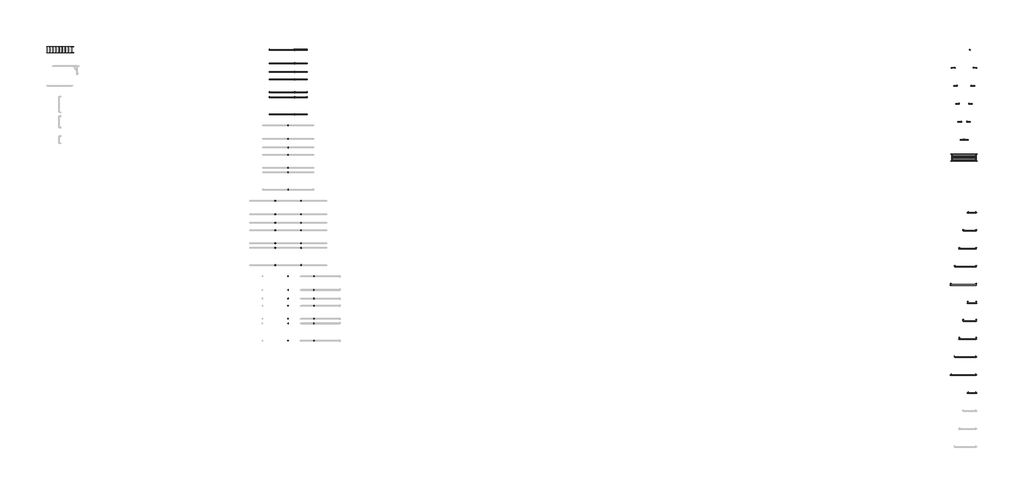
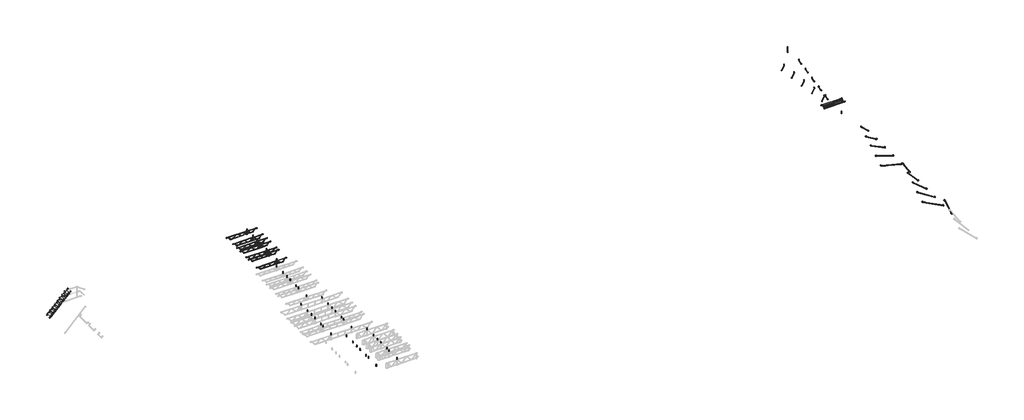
# One storey, part 2 of 2: 74 proxies.
"""IFC4 building model written with IfcOpenShell, lengths in millimetres."""

from ifc_helpers import new_model, si_unit, origin, place, context, project, spatial, transform, mapped, element, save
from components import generic_models_9149ebec, generic_models_e8462fea, generic_models_89b152cf, generic_models_258c66e1, generic_models_1a3c0f21, generic_models_b59a73c9, generic_models_47678d16, generic_models_ed6e2dec, generic_models_a7a6e0bf, generic_models_2d8e7d99, generic_models_ef642bdb, generic_models_513740f3, generic_models_756b3199, generic_models_037b7c47, generic_models_7b9bd429, generic_models_9f188e84, generic_models_ce839660, generic_models_b0d1cf98, generic_models_d6438b01, generic_models_7990cb1c, generic_models_4b7686ac

model = new_model("IFC4")

# Units and contexts
model_context = context("Model", 3, world=origin())
ifc_project = project(units=[si_unit("LENGTHUNIT", "METRE", prefix="MILLI")], contexts=[model_context])

# Site, building, storey
site = spatial("IfcSite", under=ifc_project)
building = spatial("IfcBuilding", under=site)
storey = spatial("IfcBuildingStorey", under=building, Name="レベル 1", Elevation=500.0)

# Proxies
placement = place(None, origin())
generic_models_shape = generic_models_9149ebec(model_context)
element("IfcBuildingElementProxy", 1, Name="AK_アルバトロスＡＫアウトリガー : AK_アルバトロスＡＫアウトリガー", ObjectType="AK_アルバトロスＡＫアウトリガー : AK_アルバトロスＡＫアウトリガー", at=placement, inside=storey, context=model_context, shape_type="MappedRepresentation", body=[
    mapped(generic_models_shape, transform((111846.8507471, 25132.706542, 500.0), x_axis=(1.0, 0.0, 0.0), y_axis=(0.0, 1.0, 0.0), z_axis=(0.0, 0.0, 1.0))),
])
generic_models_2_shape = generic_models_e8462fea(model_context)
element("IfcBuildingElementProxy", 2, Name="AK_アルバトロスAK全開閉式床付き布わく : ALTHM518S", ObjectType="AK_アルバトロスAK全開閉式床付き布わく : ALTHM518S", at=placement, inside=storey, context=model_context, shape_type="MappedRepresentation", body=[
    mapped(generic_models_2_shape, transform((111305.1155155, 17331.6914409, 500.0), x_axis=(1.0, 0.0, 0.0), y_axis=(0.0, 1.0, 0.0), z_axis=(0.0, 0.0, 1.0))),
])
generic_models_3_shape = generic_models_89b152cf(model_context)
element("IfcBuildingElementProxy", 3, Name="AK_アルバ用大引受ジャッキかさ上げ金具 : AK_アルバ用大引受ジャッキかさ上げ金具", ObjectType="AK_アルバ用大引受ジャッキかさ上げ金具 : AK_アルバ用大引受ジャッキかさ上げ金具", at=placement, inside=storey, context=model_context, shape_type="MappedRepresentation", body=[
    mapped(generic_models_3_shape, transform((112219.6155155, 16312.706542, 500.0), x_axis=(1.0, 0.0, 0.0), y_axis=(0.0, 1.0, 0.0), z_axis=(0.0, 0.0, 1.0))),
])
generic_models_4_shape = generic_models_258c66e1(model_context)
element("IfcBuildingElementProxy", 4, Name="アルバトロスAK1.5スパンはりわく_軽 : アルバトロスAK1.5スパンはりわく_軽", ObjectType="アルバトロスAK1.5スパンはりわく_軽 : アルバトロスAK1.5スパンはりわく_軽", at=placement, inside=storey, context=model_context, shape_type="MappedRepresentation", body=[
    mapped(generic_models_4_shape, transform((63657.8356425, 25132.706542, 500.0), x_axis=(1.0, 0.0, 0.0), y_axis=(0.0, 1.0, 0.0), z_axis=(0.0, 0.0, 1.0))),
])
generic_models_5_shape = generic_models_1a3c0f21(model_context)
element("IfcBuildingElementProxy", 5, Name="AK_アルバトロスAK伸縮斜材 : H0900×L1200", ObjectType="AK_アルバトロスAK伸縮斜材 : H0900×L1200", at=placement, inside=storey, context=model_context, shape_type="MappedRepresentation", body=[
    mapped(generic_models_5_shape, transform((113074.6155155, 11202.706542, 0.0), x_axis=(1.0, 0.0, 0.0), y_axis=(0.0, 1.0, 0.0), z_axis=(0.0, 0.0, 1.0))),
])
generic_models_6_shape = generic_models_b59a73c9(model_context)
element("IfcBuildingElementProxy", 6, Name="AK_アルバトロスAK伸縮斜材 : H1350×L1200", ObjectType="AK_アルバトロスAK伸縮斜材 : H1350×L1200", at=placement, inside=storey, context=model_context, shape_type="MappedRepresentation", body=[
    mapped(generic_models_6_shape, transform((113074.6155155, 4902.706542, 0.0), x_axis=(1.0, 0.0, 0.0), y_axis=(0.0, 1.0, 0.0), z_axis=(0.0, 0.0, 1.0))),
])
generic_models_7_shape = generic_models_47678d16(model_context)
element("IfcBuildingElementProxy", 7, Name="AK_アルバトロスAK伸縮斜材 : H0900×L1500", ObjectType="AK_アルバトロスAK伸縮斜材 : H0900×L1500", at=placement, inside=storey, context=model_context, shape_type="MappedRepresentation", body=[
    mapped(generic_models_7_shape, transform((113074.6155155, 9942.706542, 0.0), x_axis=(1.0, 0.0, 0.0), y_axis=(0.0, 1.0, 0.0), z_axis=(0.0, 0.0, 1.0))),
])
generic_models_8_shape = generic_models_ed6e2dec(model_context)
element("IfcBuildingElementProxy", 8, Name="AK_アルバトロスAK伸縮斜材 : H1350×L1500", ObjectType="AK_アルバトロスAK伸縮斜材 : H1350×L1500", at=placement, inside=storey, context=model_context, shape_type="MappedRepresentation", body=[
    mapped(generic_models_8_shape, transform((113074.6155155, 3642.706542, 0.0), x_axis=(1.0, 0.0, 0.0), y_axis=(0.0, 1.0, 0.0), z_axis=(0.0, 0.0, 1.0))),
])
generic_models_9_shape = generic_models_a7a6e0bf(model_context)
element("IfcBuildingElementProxy", 9, Name="AK_アルバトロスAK伸縮斜材 : H0900×L1800", ObjectType="AK_アルバトロスAK伸縮斜材 : H0900×L1800", at=placement, inside=storey, context=model_context, shape_type="MappedRepresentation", body=[
    mapped(generic_models_9_shape, transform((113074.6155155, 8682.706542, 0.0), x_axis=(1.0, 0.0, 0.0), y_axis=(0.0, 1.0, 0.0), z_axis=(0.0, 0.0, 1.0))),
])
generic_models_10_shape = generic_models_2d8e7d99(model_context)
element("IfcBuildingElementProxy", 10, Name="AK_アルバトロスAK伸縮斜材 : H1350×L1800", ObjectType="AK_アルバトロスAK伸縮斜材 : H1350×L1800", at=placement, inside=storey, context=model_context, shape_type="MappedRepresentation", body=[
    mapped(generic_models_10_shape, transform((113074.6155155, 2382.706542, 0.0), x_axis=(1.0, 0.0, 0.0), y_axis=(0.0, 1.0, 0.0), z_axis=(0.0, 0.0, 1.0))),
])
generic_models_11_shape = generic_models_ef642bdb(model_context)
element("IfcBuildingElementProxy", 11, Name="AK_アルバトロスAK伸縮斜材 : H1350×L0900", ObjectType="AK_アルバトロスAK伸縮斜材 : H1350×L0900", at=placement, inside=storey, context=model_context, shape_type="MappedRepresentation", body=[
    mapped(generic_models_11_shape, transform((113074.6155155, 6162.706542, 0.0), x_axis=(1.0, 0.0, 0.0), y_axis=(0.0, 1.0, 0.0), z_axis=(0.0, 0.0, 1.0))),
])
generic_models_12_shape = generic_models_513740f3(model_context)
element("IfcBuildingElementProxy", 12, Name="AK_アルバトロスAK伸縮斜材 : H1800×L0600", ObjectType="AK_アルバトロスAK伸縮斜材 : H1800×L0600", at=placement, inside=storey, context=model_context, shape_type="MappedRepresentation", body=[
    mapped(generic_models_12_shape, transform((113074.6155155, 1122.706542, 0.0), x_axis=(1.0, 0.0, 0.0), y_axis=(0.0, 1.0, 0.0), z_axis=(0.0, 0.0, 1.0))),
])
generic_models_13_shape = generic_models_756b3199(model_context)
element("IfcBuildingElementProxy", 13, Name="AK_アルバトロスAK伸縮斜材 : H0900×L0900", ObjectType="AK_アルバトロスAK伸縮斜材 : H0900×L0900", at=placement, inside=storey, context=model_context, shape_type="MappedRepresentation", body=[
    mapped(generic_models_13_shape, transform((113074.6155155, 12462.706542, 0.0), x_axis=(1.0, 0.0, 0.0), y_axis=(0.0, 1.0, 0.0), z_axis=(0.0, 0.0, 1.0))),
])
generic_models_14_shape = generic_models_037b7c47(model_context)
element("IfcBuildingElementProxy", 14, Name="AK_アルバトロスAK伸縮斜材 : H0900×L0600", ObjectType="AK_アルバトロスAK伸縮斜材 : H0900×L0600", at=placement, inside=storey, context=model_context, shape_type="MappedRepresentation", body=[
    mapped(generic_models_14_shape, transform((113074.6155155, 13722.706542, 0.0), x_axis=(1.0, 0.0, 0.0), y_axis=(0.0, 1.0, 0.0), z_axis=(0.0, 0.0, 1.0))),
])
generic_models_15_shape = generic_models_7b9bd429(model_context)
element("IfcBuildingElementProxy", 15, Name="AK_アルバトロスAK伸縮斜材 : H1350×L0600", ObjectType="AK_アルバトロスAK伸縮斜材 : H1350×L0600", at=placement, inside=storey, context=model_context, shape_type="MappedRepresentation", body=[
    mapped(generic_models_15_shape, transform((113074.6155155, 7422.706542, 0.0), x_axis=(1.0, 0.0, 0.0), y_axis=(0.0, 1.0, 0.0), z_axis=(0.0, 0.0, 1.0))),
])
generic_models_16_shape = generic_models_9f188e84(model_context)
element("IfcBuildingElementProxy", 16, Name="AK_強化方杖-子_軽 : W0600_強化方杖", ObjectType="AK_強化方杖-子_軽 : W0600_強化方杖", at=placement, inside=storey, context=model_context, shape_type="MappedRepresentation", body=[
    mapped(generic_models_16_shape, transform((111319.6155155, 23872.706542, 500.0), x_axis=(0.0, -1.0, 0.0), y_axis=(1.0, 0.0, 0.0), z_axis=(0.0, 0.0, 1.0))),
])
element("IfcBuildingElementProxy", 17, Name="AK_強化方杖-子_軽 : W0600_強化方杖", ObjectType="AK_強化方杖-子_軽 : W0600_強化方杖", at=placement, inside=storey, context=model_context, shape_type="MappedRepresentation", body=[
    mapped(generic_models_16_shape, transform((111474.6739315, 22612.706542, 500.0), x_axis=(0.0, -1.0, 0.0), y_axis=(1.0, 0.0, 0.0), z_axis=(0.0, 0.0, 1.0))),
])
element("IfcBuildingElementProxy", 18, Name="AK_強化方杖-子_軽 : W0600_強化方杖", ObjectType="AK_強化方杖-子_軽 : W0600_強化方杖", at=placement, inside=storey, context=model_context, shape_type="MappedRepresentation", body=[
    mapped(generic_models_16_shape, transform((111604.6739315, 21352.706542, 500.0), x_axis=(0.0, -1.0, 0.0), y_axis=(1.0, 0.0, 0.0), z_axis=(0.0, 0.0, 1.0))),
])
element("IfcBuildingElementProxy", 19, Name="AK_強化方杖-子_軽 : W0600_強化方杖", ObjectType="AK_強化方杖-子_軽 : W0600_強化方杖", at=placement, inside=storey, context=model_context, shape_type="MappedRepresentation", body=[
    mapped(generic_models_16_shape, transform((111774.6739315, 20092.706542, 500.0), x_axis=(0.0, -1.0, 0.0), y_axis=(1.0, 0.0, 0.0), z_axis=(0.0, 0.0, 1.0))),
])
element("IfcBuildingElementProxy", 20, Name="AK_強化方杖-子_軽 : W0600_強化方杖", ObjectType="AK_強化方杖-子_軽 : W0600_強化方杖", at=placement, inside=storey, context=model_context, shape_type="MappedRepresentation", body=[
    mapped(generic_models_16_shape, transform((111919.6155155, 18832.706542, 500.0), x_axis=(0.0, -1.0, 0.0), y_axis=(1.0, 0.0, 0.0), z_axis=(0.0, 0.0, 1.0))),
])
element("IfcBuildingElementProxy", 21, Name="AK_強化方杖-子_軽 : W0600_強化方杖", ObjectType="AK_強化方杖-子_軽 : W0600_強化方杖", at=placement, inside=storey, context=model_context, shape_type="MappedRepresentation", body=[
    mapped(generic_models_16_shape, transform((113119.6155155, 23872.706542, 500.0), x_axis=(0.0, 1.0, 0.0), y_axis=(-1.0, 0.0, 0.0), z_axis=(0.0, 0.0, 1.0))),
])
element("IfcBuildingElementProxy", 22, Name="AK_強化方杖-子_軽 : W0600_強化方杖", ObjectType="AK_強化方杖-子_軽 : W0600_強化方杖", at=placement, inside=storey, context=model_context, shape_type="MappedRepresentation", body=[
    mapped(generic_models_16_shape, transform((112974.6739315, 22612.706542, 500.0), x_axis=(0.0, 1.0, 0.0), y_axis=(-1.0, 0.0, 0.0), z_axis=(0.0, 0.0, 1.0))),
])
element("IfcBuildingElementProxy", 23, Name="AK_強化方杖-子_軽 : W0600_強化方杖", ObjectType="AK_強化方杖-子_軽 : W0600_強化方杖", at=placement, inside=storey, context=model_context, shape_type="MappedRepresentation", body=[
    mapped(generic_models_16_shape, transform((112804.6739315, 21352.706542, 500.0), x_axis=(0.0, 1.0, 0.0), y_axis=(-1.0, 0.0, 0.0), z_axis=(0.0, 0.0, 1.0))),
])
element("IfcBuildingElementProxy", 24, Name="AK_強化方杖-子_軽 : W0600_強化方杖", ObjectType="AK_強化方杖-子_軽 : W0600_強化方杖", at=placement, inside=storey, context=model_context, shape_type="MappedRepresentation", body=[
    mapped(generic_models_16_shape, transform((112674.6739315, 20092.706542, 500.0), x_axis=(0.0, 1.0, 0.0), y_axis=(-1.0, 0.0, 0.0), z_axis=(0.0, 0.0, 1.0))),
])
element("IfcBuildingElementProxy", 25, Name="AK_強化方杖-子_軽 : W0600_強化方杖", ObjectType="AK_強化方杖-子_軽 : W0600_強化方杖", at=placement, inside=storey, context=model_context, shape_type="MappedRepresentation", body=[
    mapped(generic_models_16_shape, transform((112519.6155155, 18832.706542, 500.0), x_axis=(0.0, 1.0, 0.0), y_axis=(-1.0, 0.0, 0.0), z_axis=(0.0, 0.0, 1.0))),
])
element("IfcBuildingElementProxy", 26, Name="アルバトロスAK1.5スパンはりわく_軽 : アルバトロスAK1.5スパンはりわく_軽", ObjectType="アルバトロスAK1.5スパンはりわく_軽 : アルバトロスAK1.5スパンはりわく_軽", at=placement, inside=storey, context=model_context, shape_type="MappedRepresentation", body=[
    mapped(generic_models_4_shape, transform((63662.8356425, 23582.706542, 500.0), x_axis=(1.0, 0.0, 0.0), y_axis=(0.0, 1.0, 0.0), z_axis=(0.0, 0.0, 1.0))),
])
element("IfcBuildingElementProxy", 27, Name="アルバトロスAK1.5スパンはりわく_軽 : アルバトロスAK1.5スパンはりわく_軽", ObjectType="アルバトロスAK1.5スパンはりわく_軽 : アルバトロスAK1.5スパンはりわく_軽", at=placement, inside=storey, context=model_context, shape_type="MappedRepresentation", body=[
    mapped(generic_models_4_shape, transform((63662.8356425, 22162.706542, 500.0), x_axis=(1.0, 0.0, 0.0), y_axis=(0.0, 1.0, 0.0), z_axis=(0.0, 0.0, 1.0))),
])
element("IfcBuildingElementProxy", 28, Name="アルバトロスAK1.5スパンはりわく_軽 : アルバトロスAK1.5スパンはりわく_軽", ObjectType="アルバトロスAK1.5スパンはりわく_軽 : アルバトロスAK1.5スパンはりわく_軽", at=placement, inside=storey, context=model_context, shape_type="MappedRepresentation", body=[
    mapped(generic_models_4_shape, transform((63662.8356425, 20612.706542, 500.0), x_axis=(1.0, 0.0, 0.0), y_axis=(0.0, 1.0, 0.0), z_axis=(0.0, 0.0, 1.0))),
])
generic_models_17_shape = generic_models_ce839660(model_context)
element("IfcBuildingElementProxy", 29, Name="梁枠部品ピン_軽 : 梁枠部品ピン_軽", ObjectType="梁枠部品ピン_軽 : 梁枠部品ピン_軽", at=placement, inside=storey, context=model_context, shape_type="MappedRepresentation", body=[
    mapped(generic_models_17_shape, transform((65462.8356425, 23582.706542, 500.0), x_axis=(1.0, 0.0, 0.0), y_axis=(0.0, 1.0, 0.0), z_axis=(0.0, 0.0, 1.0))),
])
element("IfcBuildingElementProxy", 30, Name="梁枠部品ピン_軽 : 梁枠部品ピン_軽", ObjectType="梁枠部品ピン_軽 : 梁枠部品ピン_軽", at=placement, inside=storey, context=model_context, shape_type="MappedRepresentation", body=[
    mapped(generic_models_17_shape, transform((65462.8356425, 22162.706542, 500.0), x_axis=(1.0, 0.0, 0.0), y_axis=(0.0, 1.0, 0.0), z_axis=(0.0, 0.0, 1.0))),
])
element("IfcBuildingElementProxy", 31, Name="梁枠部品ピン_軽 : 梁枠部品ピン_軽", ObjectType="梁枠部品ピン_軽 : 梁枠部品ピン_軽", at=placement, inside=storey, context=model_context, shape_type="MappedRepresentation", body=[
    mapped(generic_models_17_shape, transform((65462.8356425, 20612.706542, 500.0), x_axis=(1.0, 0.0, 0.0), y_axis=(0.0, 1.0, 0.0), z_axis=(0.0, 0.0, 1.0))),
])
element("IfcBuildingElementProxy", 32, Name="梁枠部品ピン_軽 : 梁枠部品ピン_軽", ObjectType="梁枠部品ピン_軽 : 梁枠部品ピン_軽", at=placement, inside=storey, context=model_context, shape_type="MappedRepresentation", body=[
    mapped(generic_models_17_shape, transform((65457.8356425, 25132.706542, 500.0), x_axis=(1.0, 0.0, 0.0), y_axis=(0.0, 1.0, 0.0), z_axis=(0.0, 0.0, 1.0))),
])
generic_models_18_shape = generic_models_b0d1cf98(model_context)
element("IfcBuildingElementProxy", 33, Name="アルバトロスAK1.5スパンはりわく_軽 : アルバトロスAK1.5スパンはりわく_軽", ObjectType="アルバトロスAK1.5スパンはりわく_軽 : アルバトロスAK1.5スパンはりわく_軽", at=placement, inside=storey, context=model_context, shape_type="MappedRepresentation", body=[
    mapped(generic_models_18_shape, transform((63662.8356425, 24182.706542, 500.0), x_axis=(1.0, 0.0, 0.0), y_axis=(0.0, 1.0, 0.0), z_axis=(0.0, 0.0, 1.0))),
])
element("IfcBuildingElementProxy", 34, Name="アルバトロスAK1.5スパンはりわく_軽 : アルバトロスAK1.5スパンはりわく_軽", ObjectType="アルバトロスAK1.5スパンはりわく_軽 : アルバトロスAK1.5スパンはりわく_軽", at=placement, inside=storey, context=model_context, shape_type="MappedRepresentation", body=[
    mapped(generic_models_18_shape, transform((63662.8356425, 23062.706542, 500.0), x_axis=(1.0, 0.0, 0.0), y_axis=(0.0, 1.0, 0.0), z_axis=(0.0, 0.0, 1.0))),
])
element("IfcBuildingElementProxy", 35, Name="アルバトロスAK1.5スパンはりわく_軽 : アルバトロスAK1.5スパンはりわく_軽", ObjectType="アルバトロスAK1.5スパンはりわく_軽 : アルバトロスAK1.5スパンはりわく_軽", at=placement, inside=storey, context=model_context, shape_type="MappedRepresentation", body=[
    mapped(generic_models_18_shape, transform((63662.8356425, 21812.706542, 500.0), x_axis=(1.0, 0.0, 0.0), y_axis=(0.0, 1.0, 0.0), z_axis=(0.0, 0.0, 1.0))),
])
generic_models_19_shape = generic_models_d6438b01(model_context)
element("IfcBuildingElementProxy", 36, Name="梁枠部品ピン_軽 : 梁枠部品ピン_軽", ObjectType="梁枠部品ピン_軽 : 梁枠部品ピン_軽", at=placement, inside=storey, context=model_context, shape_type="MappedRepresentation", body=[
    mapped(generic_models_19_shape, transform((65462.8356425, 24182.706542, 500.0), x_axis=(1.0, 0.0, 0.0), y_axis=(0.0, 1.0, 0.0), z_axis=(0.0, 0.0, 1.0))),
])
element("IfcBuildingElementProxy", 37, Name="梁枠部品ピン_軽 : 梁枠部品ピン_軽", ObjectType="梁枠部品ピン_軽 : 梁枠部品ピン_軽", at=placement, inside=storey, context=model_context, shape_type="MappedRepresentation", body=[
    mapped(generic_models_19_shape, transform((65462.8356425, 23062.706542, 500.0), x_axis=(1.0, 0.0, 0.0), y_axis=(0.0, 1.0, 0.0), z_axis=(0.0, 0.0, 1.0))),
])
element("IfcBuildingElementProxy", 38, Name="梁枠部品ピン_軽 : 梁枠部品ピン_軽", ObjectType="梁枠部品ピン_軽 : 梁枠部品ピン_軽", at=placement, inside=storey, context=model_context, shape_type="MappedRepresentation", body=[
    mapped(generic_models_19_shape, transform((65462.8356425, 21812.706542, 500.0), x_axis=(1.0, 0.0, 0.0), y_axis=(0.0, 1.0, 0.0), z_axis=(0.0, 0.0, 1.0))),
])
element("IfcBuildingElementProxy", 39, Name="梁枠部品ピン_軽 : 梁枠部品ピン_軽", ObjectType="梁枠部品ピン_軽 : 梁枠部品ピン_軽", at=placement, inside=storey, context=model_context, shape_type="MappedRepresentation", body=[
    mapped(generic_models_17_shape, transform((65005.3356425, 18292.706542, 500.0), x_axis=(1.0, 0.0, 0.0), y_axis=(0.0, 1.0, 0.0), z_axis=(0.0, 0.0, 1.0))),
])
element("IfcBuildingElementProxy", 40, Name="梁枠部品ピン_軽 : 梁枠部品ピン_軽", ObjectType="梁枠部品ピン_軽 : 梁枠部品ピン_軽", at=placement, inside=storey, context=model_context, shape_type="MappedRepresentation", body=[
    mapped(generic_models_17_shape, transform((65005.3356425, 16882.706542, 500.0), x_axis=(1.0, 0.0, 0.0), y_axis=(0.0, 1.0, 0.0), z_axis=(0.0, 0.0, 1.0))),
])
element("IfcBuildingElementProxy", 41, Name="梁枠部品ピン_軽 : 梁枠部品ピン_軽", ObjectType="梁枠部品ピン_軽 : 梁枠部品ピン_軽", at=placement, inside=storey, context=model_context, shape_type="MappedRepresentation", body=[
    mapped(generic_models_17_shape, transform((65005.3356425, 15352.706542, 500.0), x_axis=(1.0, 0.0, 0.0), y_axis=(0.0, 1.0, 0.0), z_axis=(0.0, 0.0, 1.0))),
])
element("IfcBuildingElementProxy", 42, Name="梁枠部品ピン_軽 : 梁枠部品ピン_軽", ObjectType="梁枠部品ピン_軽 : 梁枠部品ピン_軽", at=placement, inside=storey, context=model_context, shape_type="MappedRepresentation", body=[
    mapped(generic_models_17_shape, transform((65005.3356425, 19852.706542, 500.0), x_axis=(1.0, 0.0, 0.0), y_axis=(0.0, 1.0, 0.0), z_axis=(0.0, 0.0, 1.0))),
])
element("IfcBuildingElementProxy", 43, Name="梁枠部品ピン_軽 : 梁枠部品ピン_軽", ObjectType="梁枠部品ピン_軽 : 梁枠部品ピン_軽", at=placement, inside=storey, context=model_context, shape_type="MappedRepresentation", body=[
    mapped(generic_models_19_shape, transform((65005.3356425, 18892.706542, 500.0), x_axis=(1.0, 0.0, 0.0), y_axis=(0.0, 1.0, 0.0), z_axis=(0.0, 0.0, 1.0))),
])
element("IfcBuildingElementProxy", 44, Name="梁枠部品ピン_軽 : 梁枠部品ピン_軽", ObjectType="梁枠部品ピン_軽 : 梁枠部品ピン_軽", at=placement, inside=storey, context=model_context, shape_type="MappedRepresentation", body=[
    mapped(generic_models_19_shape, transform((65005.3356425, 17782.706542, 500.0), x_axis=(1.0, 0.0, 0.0), y_axis=(0.0, 1.0, 0.0), z_axis=(0.0, 0.0, 1.0))),
])
element("IfcBuildingElementProxy", 45, Name="梁枠部品ピン_軽 : 梁枠部品ピン_軽", ObjectType="梁枠部品ピン_軽 : 梁枠部品ピン_軽", at=placement, inside=storey, context=model_context, shape_type="MappedRepresentation", body=[
    mapped(generic_models_19_shape, transform((65005.3356425, 16552.706542, 500.0), x_axis=(1.0, 0.0, 0.0), y_axis=(0.0, 1.0, 0.0), z_axis=(0.0, 0.0, 1.0))),
])
element("IfcBuildingElementProxy", 46, Name="梁枠部品ピン_軽 : 梁枠部品ピン_軽", ObjectType="梁枠部品ピン_軽 : 梁枠部品ピン_軽", at=placement, inside=storey, context=model_context, shape_type="MappedRepresentation", body=[
    mapped(generic_models_17_shape, transform((64105.3356425, 11602.706542, 500.0), x_axis=(1.0, 0.0, 0.0), y_axis=(0.0, 1.0, 0.0), z_axis=(0.0, 0.0, 1.0))),
])
element("IfcBuildingElementProxy", 47, Name="梁枠部品ピン_軽 : 梁枠部品ピン_軽", ObjectType="梁枠部品ピン_軽 : 梁枠部品ピン_軽", at=placement, inside=storey, context=model_context, shape_type="MappedRepresentation", body=[
    mapped(generic_models_17_shape, transform((65905.3356425, 11602.706542, 500.0), x_axis=(1.0, 0.0, 0.0), y_axis=(0.0, 1.0, 0.0), z_axis=(0.0, 0.0, 1.0))),
])
element("IfcBuildingElementProxy", 48, Name="梁枠部品ピン_軽 : 梁枠部品ピン_軽", ObjectType="梁枠部品ピン_軽 : 梁枠部品ピン_軽", at=placement, inside=storey, context=model_context, shape_type="MappedRepresentation", body=[
    mapped(generic_models_17_shape, transform((64105.3356425, 10072.706542, 500.0), x_axis=(1.0, 0.0, 0.0), y_axis=(0.0, 1.0, 0.0), z_axis=(0.0, 0.0, 1.0))),
])
element("IfcBuildingElementProxy", 49, Name="梁枠部品ピン_軽 : 梁枠部品ピン_軽", ObjectType="梁枠部品ピン_軽 : 梁枠部品ピン_軽", at=placement, inside=storey, context=model_context, shape_type="MappedRepresentation", body=[
    mapped(generic_models_17_shape, transform((65905.3356425, 10072.706542, 500.0), x_axis=(1.0, 0.0, 0.0), y_axis=(0.0, 1.0, 0.0), z_axis=(0.0, 0.0, 1.0))),
])
element("IfcBuildingElementProxy", 50, Name="梁枠部品ピン_軽 : 梁枠部品ピン_軽", ObjectType="梁枠部品ピン_軽 : 梁枠部品ピン_軽", at=placement, inside=storey, context=model_context, shape_type="MappedRepresentation", body=[
    mapped(generic_models_17_shape, transform((64105.3356425, 14572.706542, 500.0), x_axis=(1.0, 0.0, 0.0), y_axis=(0.0, 1.0, 0.0), z_axis=(0.0, 0.0, 1.0))),
])
element("IfcBuildingElementProxy", 51, Name="梁枠部品ピン_軽 : 梁枠部品ピン_軽", ObjectType="梁枠部品ピン_軽 : 梁枠部品ピン_軽", at=placement, inside=storey, context=model_context, shape_type="MappedRepresentation", body=[
    mapped(generic_models_17_shape, transform((65905.3356425, 14572.706542, 500.0), x_axis=(1.0, 0.0, 0.0), y_axis=(0.0, 1.0, 0.0), z_axis=(0.0, 0.0, 1.0))),
])
element("IfcBuildingElementProxy", 52, Name="梁枠部品ピン_軽 : 梁枠部品ピン_軽", ObjectType="梁枠部品ピン_軽 : 梁枠部品ピン_軽", at=placement, inside=storey, context=model_context, shape_type="MappedRepresentation", body=[
    mapped(generic_models_17_shape, transform((64105.3356425, 13028.206542, 500.0), x_axis=(1.0, 0.0, 0.0), y_axis=(0.0, 1.0, 0.0), z_axis=(0.0, 0.0, 1.0))),
])
element("IfcBuildingElementProxy", 53, Name="梁枠部品ピン_軽 : 梁枠部品ピン_軽", ObjectType="梁枠部品ピン_軽 : 梁枠部品ピン_軽", at=placement, inside=storey, context=model_context, shape_type="MappedRepresentation", body=[
    mapped(generic_models_17_shape, transform((65905.3356425, 13028.206542, 500.0), x_axis=(1.0, 0.0, 0.0), y_axis=(0.0, 1.0, 0.0), z_axis=(0.0, 0.0, 1.0))),
])
element("IfcBuildingElementProxy", 54, Name="梁枠部品ピン_軽 : 梁枠部品ピン_軽", ObjectType="梁枠部品ピン_軽 : 梁枠部品ピン_軽", at=placement, inside=storey, context=model_context, shape_type="MappedRepresentation", body=[
    mapped(generic_models_19_shape, transform((64105.3356425, 12502.706542, 500.0), x_axis=(1.0, 0.0, 0.0), y_axis=(0.0, 1.0, 0.0), z_axis=(0.0, 0.0, 1.0))),
])
element("IfcBuildingElementProxy", 55, Name="梁枠部品ピン_軽 : 梁枠部品ピン_軽", ObjectType="梁枠部品ピン_軽 : 梁枠部品ピン_軽", at=placement, inside=storey, context=model_context, shape_type="MappedRepresentation", body=[
    mapped(generic_models_19_shape, transform((65905.3356425, 12502.706542, 500.0), x_axis=(1.0, 0.0, 0.0), y_axis=(0.0, 1.0, 0.0), z_axis=(0.0, 0.0, 1.0))),
])
element("IfcBuildingElementProxy", 56, Name="梁枠部品ピン_軽 : 梁枠部品ピン_軽", ObjectType="梁枠部品ピン_軽 : 梁枠部品ピン_軽", at=placement, inside=storey, context=model_context, shape_type="MappedRepresentation", body=[
    mapped(generic_models_19_shape, transform((64105.3356425, 11272.706542, 500.0), x_axis=(1.0, 0.0, 0.0), y_axis=(0.0, 1.0, 0.0), z_axis=(0.0, 0.0, 1.0))),
])
element("IfcBuildingElementProxy", 57, Name="梁枠部品ピン_軽 : 梁枠部品ピン_軽", ObjectType="梁枠部品ピン_軽 : 梁枠部品ピン_軽", at=placement, inside=storey, context=model_context, shape_type="MappedRepresentation", body=[
    mapped(generic_models_19_shape, transform((65905.3356425, 11272.706542, 500.0), x_axis=(1.0, 0.0, 0.0), y_axis=(0.0, 1.0, 0.0), z_axis=(0.0, 0.0, 1.0))),
])
element("IfcBuildingElementProxy", 58, Name="梁枠部品ピン_軽 : 梁枠部品ピン_軽", ObjectType="梁枠部品ピン_軽 : 梁枠部品ピン_軽", at=placement, inside=storey, context=model_context, shape_type="MappedRepresentation", body=[
    mapped(generic_models_19_shape, transform((64105.3356425, 13628.206542, 500.0), x_axis=(1.0, 0.0, 0.0), y_axis=(0.0, 1.0, 0.0), z_axis=(0.0, 0.0, 1.0))),
])
element("IfcBuildingElementProxy", 59, Name="梁枠部品ピン_軽 : 梁枠部品ピン_軽", ObjectType="梁枠部品ピン_軽 : 梁枠部品ピン_軽", at=placement, inside=storey, context=model_context, shape_type="MappedRepresentation", body=[
    mapped(generic_models_19_shape, transform((65905.3356425, 13628.206542, 500.0), x_axis=(1.0, 0.0, 0.0), y_axis=(0.0, 1.0, 0.0), z_axis=(0.0, 0.0, 1.0))),
])
element("IfcBuildingElementProxy", 60, Name="梁枠部品ピン_軽 : 梁枠部品ピン_軽", ObjectType="梁枠部品ピン_軽 : 梁枠部品ピン_軽", at=placement, inside=storey, context=model_context, shape_type="MappedRepresentation", body=[
    mapped(generic_models_19_shape, transform((65005.3356425, 8332.706542, 500.0), x_axis=(1.0, 0.0, 0.0), y_axis=(0.0, 1.0, 0.0), z_axis=(0.0, 0.0, 1.0))),
])
element("IfcBuildingElementProxy", 61, Name="梁枠部品ピン_軽 : 梁枠部品ピン_軽", ObjectType="梁枠部品ピン_軽 : 梁枠部品ピン_軽", at=placement, inside=storey, context=model_context, shape_type="MappedRepresentation", body=[
    mapped(generic_models_19_shape, transform((66805.3356425, 8332.706542, 500.0), x_axis=(1.0, 0.0, 0.0), y_axis=(0.0, 1.0, 0.0), z_axis=(0.0, 0.0, 1.0))),
])
element("IfcBuildingElementProxy", 62, Name="梁枠部品ピン_軽 : 梁枠部品ピン_軽", ObjectType="梁枠部品ピン_軽 : 梁枠部品ピン_軽", at=placement, inside=storey, context=model_context, shape_type="MappedRepresentation", body=[
    mapped(generic_models_19_shape, transform((65005.3356425, 7222.706542, 500.0), x_axis=(1.0, 0.0, 0.0), y_axis=(0.0, 1.0, 0.0), z_axis=(0.0, 0.0, 1.0))),
])
element("IfcBuildingElementProxy", 63, Name="梁枠部品ピン_軽 : 梁枠部品ピン_軽", ObjectType="梁枠部品ピン_軽 : 梁枠部品ピン_軽", at=placement, inside=storey, context=model_context, shape_type="MappedRepresentation", body=[
    mapped(generic_models_19_shape, transform((66805.3356425, 7222.706542, 500.0), x_axis=(1.0, 0.0, 0.0), y_axis=(0.0, 1.0, 0.0), z_axis=(0.0, 0.0, 1.0))),
])
element("IfcBuildingElementProxy", 64, Name="梁枠部品ピン_軽 : 梁枠部品ピン_軽", ObjectType="梁枠部品ピン_軽 : 梁枠部品ピン_軽", at=placement, inside=storey, context=model_context, shape_type="MappedRepresentation", body=[
    mapped(generic_models_19_shape, transform((65005.3356425, 5992.706542, 500.0), x_axis=(1.0, 0.0, 0.0), y_axis=(0.0, 1.0, 0.0), z_axis=(0.0, 0.0, 1.0))),
])
element("IfcBuildingElementProxy", 65, Name="梁枠部品ピン_軽 : 梁枠部品ピン_軽", ObjectType="梁枠部品ピン_軽 : 梁枠部品ピン_軽", at=placement, inside=storey, context=model_context, shape_type="MappedRepresentation", body=[
    mapped(generic_models_19_shape, transform((66805.3356425, 5992.706542, 500.0), x_axis=(1.0, 0.0, 0.0), y_axis=(0.0, 1.0, 0.0), z_axis=(0.0, 0.0, 1.0))),
])
element("IfcBuildingElementProxy", 66, Name="梁枠部品ピン_軽 : 梁枠部品ピン_軽", ObjectType="梁枠部品ピン_軽 : 梁枠部品ピン_軽", at=placement, inside=storey, context=model_context, shape_type="MappedRepresentation", body=[
    mapped(generic_models_17_shape, transform((65005.3356425, 7732.706542, 500.0), x_axis=(1.0, 0.0, 0.0), y_axis=(0.0, 1.0, 0.0), z_axis=(0.0, 0.0, 1.0))),
])
element("IfcBuildingElementProxy", 67, Name="梁枠部品ピン_軽 : 梁枠部品ピン_軽", ObjectType="梁枠部品ピン_軽 : 梁枠部品ピン_軽", at=placement, inside=storey, context=model_context, shape_type="MappedRepresentation", body=[
    mapped(generic_models_17_shape, transform((66805.3356425, 7732.706542, 500.0), x_axis=(1.0, 0.0, 0.0), y_axis=(0.0, 1.0, 0.0), z_axis=(0.0, 0.0, 1.0))),
])
element("IfcBuildingElementProxy", 68, Name="梁枠部品ピン_軽 : 梁枠部品ピン_軽", ObjectType="梁枠部品ピン_軽 : 梁枠部品ピン_軽", at=placement, inside=storey, context=model_context, shape_type="MappedRepresentation", body=[
    mapped(generic_models_17_shape, transform((65005.3356425, 6322.706542, 500.0), x_axis=(1.0, 0.0, 0.0), y_axis=(0.0, 1.0, 0.0), z_axis=(0.0, 0.0, 1.0))),
])
element("IfcBuildingElementProxy", 69, Name="梁枠部品ピン_軽 : 梁枠部品ピン_軽", ObjectType="梁枠部品ピン_軽 : 梁枠部品ピン_軽", at=placement, inside=storey, context=model_context, shape_type="MappedRepresentation", body=[
    mapped(generic_models_17_shape, transform((66805.3356425, 6322.706542, 500.0), x_axis=(1.0, 0.0, 0.0), y_axis=(0.0, 1.0, 0.0), z_axis=(0.0, 0.0, 1.0))),
])
element("IfcBuildingElementProxy", 70, Name="梁枠部品ピン_軽 : 梁枠部品ピン_軽", ObjectType="梁枠部品ピン_軽 : 梁枠部品ピン_軽", at=placement, inside=storey, context=model_context, shape_type="MappedRepresentation", body=[
    mapped(generic_models_17_shape, transform((65005.3356425, 4792.706542, 500.0), x_axis=(1.0, 0.0, 0.0), y_axis=(0.0, 1.0, 0.0), z_axis=(0.0, 0.0, 1.0))),
])
element("IfcBuildingElementProxy", 71, Name="梁枠部品ピン_軽 : 梁枠部品ピン_軽", ObjectType="梁枠部品ピン_軽 : 梁枠部品ピン_軽", at=placement, inside=storey, context=model_context, shape_type="MappedRepresentation", body=[
    mapped(generic_models_17_shape, transform((66805.3356425, 4792.706542, 500.0), x_axis=(1.0, 0.0, 0.0), y_axis=(0.0, 1.0, 0.0), z_axis=(0.0, 0.0, 1.0))),
])
element("IfcBuildingElementProxy", 72, Name="梁枠部品ピン_軽 : 梁枠部品ピン_軽", ObjectType="梁枠部品ピン_軽 : 梁枠部品ピン_軽", at=placement, inside=storey, context=model_context, shape_type="MappedRepresentation", body=[
    mapped(generic_models_17_shape, transform((65005.3356425, 9292.706542, 500.0), x_axis=(1.0, 0.0, 0.0), y_axis=(0.0, 1.0, 0.0), z_axis=(0.0, 0.0, 1.0))),
])
element("IfcBuildingElementProxy", 73, Name="梁枠部品ピン_軽 : 梁枠部品ピン_軽", ObjectType="梁枠部品ピン_軽 : 梁枠部品ピン_軽", at=placement, inside=storey, context=model_context, shape_type="MappedRepresentation", body=[
    mapped(generic_models_17_shape, transform((66805.3356425, 9292.706542, 500.0), x_axis=(1.0, 0.0, 0.0), y_axis=(0.0, 1.0, 0.0), z_axis=(0.0, 0.0, 1.0))),
])
generic_models_20_shape = generic_models_7990cb1c(model_context)
generic_models_21_shape = generic_models_4b7686ac(model_context)
element("IfcBuildingElementProxy", 74, Name="アルバトロスＡＫアルミ階段_子 : アルバトロスＡＫアルミ階段", ObjectType="アルバトロスＡＫアルミ階段_子 : アルバトロスＡＫアルミ階段", at=placement, inside=storey, context=model_context, shape_type="MappedRepresentation", body=[
    mapped(generic_models_20_shape, transform((48174.3354172, 24925.706542, -1300.0), x_axis=(1.0, 0.0, 0.0), y_axis=(0.0, 1.0, 0.0), z_axis=(0.0, 0.0, 1.0))),
    mapped(generic_models_21_shape, transform((48174.3354172, 24925.706542, -1300.0), x_axis=(1.0, 0.0, 0.0), y_axis=(0.0, 1.0, 0.0), z_axis=(0.0, 0.0, 1.0))),
])

save(model, "model.ifc")
